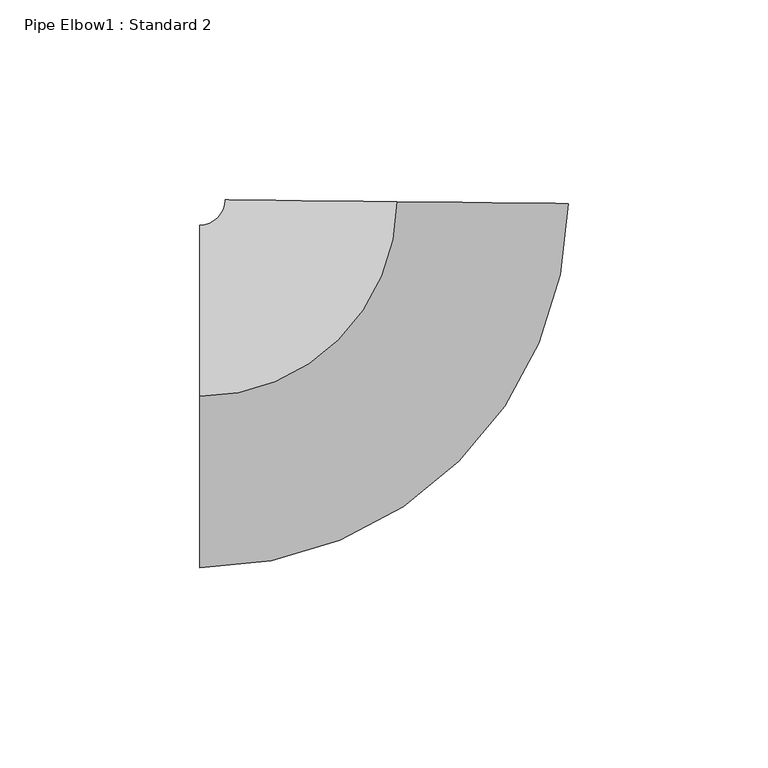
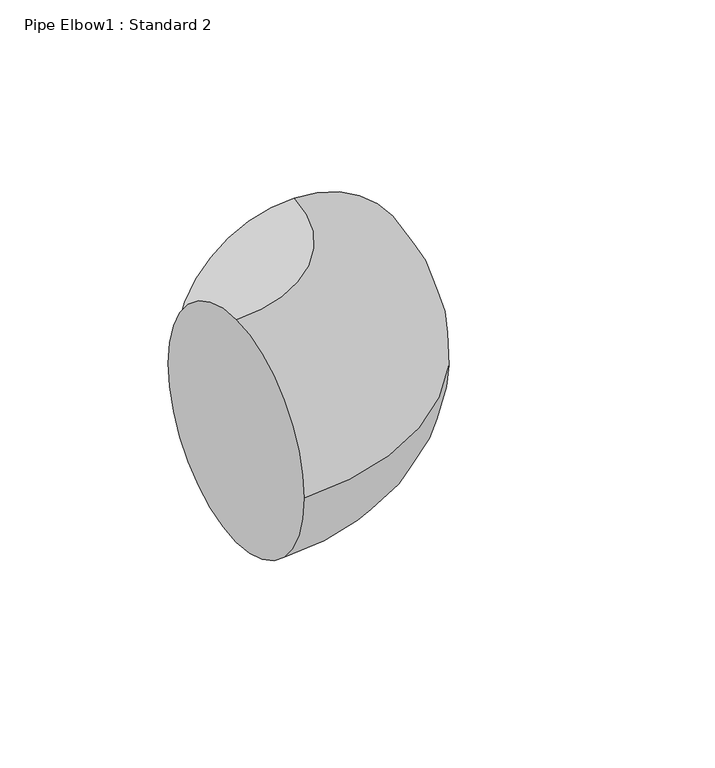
"""IFC4 building model written with IfcOpenShell, lengths in millimetres: pipe fitting geometry, Pipe Elbow1 : Standard 2."""

from ifc_helpers import new_model, si_unit, point, frame, origin, place, context, project, spatial, circle_curve, ellipse_curve, trimmed, source, transform, mapped, element, save
from ifc_brep_helpers import plane_surface, revolved_surface, advanced_brep


def pipe_elbow1_standard_2_fca8fec2(model_context):
    return source(origin(), model_context, "Body", "AdvancedBrep", [
        advanced_brep(
        [(-48.6988761, 0.0, 42.8625), (-48.6988761, 42.8625, 0.0), (-48.6988761, 0.0, -42.8625), (-48.6988761, -42.8625, 0.0), (0.5109155, 48.6961959, 42.8625), (43.3710565, 48.2465118, 0.0), (0.5109155, 48.6961959, -42.8625), (-42.3492256, 49.1458801, 0.0)],
        [
            (0, 1, circle_curve(frame((-48.6988761, 0.0, 0.0), z_axis=(-1.0, 0.0, 0.0), x_axis=(0.0, 1.0, 0.0)), 42.8625)),
            (1, 2, circle_curve(frame((-48.6988761, 0.0, 0.0), z_axis=(-1.0, 0.0, 0.0), x_axis=(0.0, 1.0, 0.0)), 42.8625)),
            (2, 3, circle_curve(frame((-48.6988761, 0.0, 0.0), z_axis=(-1.0, 0.0, 0.0), x_axis=(0.0, 1.0, 0.0)), 42.8625)),
            (3, 0, circle_curve(frame((-48.6988761, 0.0, 0.0), z_axis=(-1.0, 0.0, 0.0), x_axis=(0.0, 1.0, 0.0)), 42.8625)),
            (4, 5, circle_curve(frame((0.5109155, 48.6961959, 0.0), z_axis=(0.010491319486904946, 0.9999449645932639, 0.0), x_axis=(-0.9999449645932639, 0.010491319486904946, 0.0)), 42.8625)),
            (5, 6, circle_curve(frame((0.5109155, 48.6961959, 0.0), z_axis=(0.010491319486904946, 0.9999449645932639, 0.0), x_axis=(-0.9999449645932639, 0.010491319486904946, 0.0)), 42.8625)),
            (6, 7, circle_curve(frame((0.5109155, 48.6961959, 0.0), z_axis=(0.010491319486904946, 0.9999449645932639, 0.0), x_axis=(-0.9999449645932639, 0.010491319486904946, 0.0)), 42.8625)),
            (7, 4, circle_curve(frame((0.5109155, 48.6961959, 0.0), z_axis=(0.010491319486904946, 0.9999449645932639, 0.0), x_axis=(-0.9999449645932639, 0.010491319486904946, 0.0)), 42.8625)),
            (7, 1, circle_curve(frame((-48.6988761, 49.2125, 0.0), z_axis=(0.0, 0.0, -1.0), x_axis=(0.0, -1.0, 0.0)), 6.35)),
            (0, 4, circle_curve(frame((-48.6988761, 49.2125, 42.8625), z_axis=(0.0, 0.0, 1.0), x_axis=(0.0, -1.0, 0.0)), 49.2125)),
            (6, 2, circle_curve(frame((-48.6988761, 49.2125, -42.8625), z_axis=(0.0, 0.0, -1.0), x_axis=(0.0, -1.0, 0.0)), 49.2125)),
            (5, 3, circle_curve(frame((-48.6988761, 49.2125, 0.0), z_axis=(0.0, 0.0, -1.0), x_axis=(0.0, -1.0, 0.0)), 92.075)),
        ],
        [
            plane_surface(frame((-48.6988761, 0.0, 0.0), z_axis=(-1.0, 0.0, 0.0), x_axis=(0.0, 0.0, 1.0))),
            plane_surface(frame((0.5109155, 48.6961959, 0.0), z_axis=(0.010491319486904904, 0.9999449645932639, 0.0), x_axis=(0.0, 0.0, 1.0))),
            revolved_surface(trimmed(ellipse_curve(frame((-48.6988761, 0.0, 0.0), z_axis=(-1.0, 0.0, 0.0), x_axis=(0.0, 1.0, 0.0)), 42.8625, 42.8625), [point((-48.6988761, 0.0, 42.8625))], [point((-48.6988761, 42.8625, 0.0))], True, "CARTESIAN"), (-48.6988761, 49.2125, 0.0), (0.0, 0.0, 1.0)),
            revolved_surface(trimmed(ellipse_curve(frame((-48.6988761, 0.0, 0.0), z_axis=(-1.0, 0.0, 0.0), x_axis=(0.0, 1.0, 0.0)), 42.8625, 42.8625), [point((-48.6988761, 42.8625, 0.0))], [point((-48.6988761, 0.0, -42.8625))], True, "CARTESIAN"), (-48.6988761, 49.2125, 0.0), (0.0, 0.0, 1.0)),
            revolved_surface(trimmed(ellipse_curve(frame((-48.6988761, 0.0, 0.0), z_axis=(-1.0, 0.0, 0.0), x_axis=(0.0, 1.0, 0.0)), 42.8625, 42.8625), [point((-48.6988761, 0.0, -42.8625))], [point((-48.6988761, -42.8625, 0.0))], True, "CARTESIAN"), (-48.6988761, 49.2125, 0.0), (0.0, 0.0, 1.0)),
            revolved_surface(trimmed(ellipse_curve(frame((-48.6988761, 0.0, 0.0), z_axis=(-1.0, 0.0, 0.0), x_axis=(0.0, 1.0, 0.0)), 42.8625, 42.8625), [point((-48.6988761, -42.8625, 0.0))], [point((-48.6988761, 0.0, 42.8625))], True, "CARTESIAN"), (-48.6988761, 49.2125, 0.0), (0.0, 0.0, 1.0)),
        ],
        [
            (0, [[1, 2, 3, 4]]),
            (1, [[5, 6, 7, 8]]),
            (2, [[9, -1, 10, -8]]),
            (3, [[11, -2, -9, -7]]),
            (4, [[12, -3, -11, -6]]),
            (5, [[-10, -4, -12, -5]]),
        ],
    ),
        advanced_brep(
        [(-48.6988761, 0.0, 42.8625), (-48.6988761, 42.8625, 0.0), (-48.6988761, 0.0, -42.8625), (-48.6988761, -42.8625, 0.0), (0.5109155, 48.6961959, 42.8625), (43.3710565, 48.2465118, 0.0), (0.5109155, 48.6961959, -42.8625), (-42.3492256, 49.1458801, 0.0)],
        [
            (0, 1, circle_curve(frame((-48.6988761, 0.0, 0.0), z_axis=(-1.0, 0.0, 0.0), x_axis=(0.0, 1.0, 0.0)), 42.8625)),
            (1, 2, circle_curve(frame((-48.6988761, 0.0, 0.0), z_axis=(-1.0, 0.0, 0.0), x_axis=(0.0, 1.0, 0.0)), 42.8625)),
            (2, 3, circle_curve(frame((-48.6988761, 0.0, 0.0), z_axis=(-1.0, 0.0, 0.0), x_axis=(0.0, 1.0, 0.0)), 42.8625)),
            (3, 0, circle_curve(frame((-48.6988761, 0.0, 0.0), z_axis=(-1.0, 0.0, 0.0), x_axis=(0.0, 1.0, 0.0)), 42.8625)),
            (4, 5, circle_curve(frame((0.5109155, 48.6961959, 0.0), z_axis=(0.010491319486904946, 0.9999449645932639, 0.0), x_axis=(-0.9999449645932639, 0.010491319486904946, 0.0)), 42.8625)),
            (5, 6, circle_curve(frame((0.5109155, 48.6961959, 0.0), z_axis=(0.010491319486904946, 0.9999449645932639, 0.0), x_axis=(-0.9999449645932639, 0.010491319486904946, 0.0)), 42.8625)),
            (6, 7, circle_curve(frame((0.5109155, 48.6961959, 0.0), z_axis=(0.010491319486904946, 0.9999449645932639, 0.0), x_axis=(-0.9999449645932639, 0.010491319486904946, 0.0)), 42.8625)),
            (7, 4, circle_curve(frame((0.5109155, 48.6961959, 0.0), z_axis=(0.010491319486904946, 0.9999449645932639, 0.0), x_axis=(-0.9999449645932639, 0.010491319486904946, 0.0)), 42.8625)),
            (7, 1, circle_curve(frame((-48.6988761, 49.2125, 0.0), z_axis=(0.0, 0.0, -1.0), x_axis=(0.0, -1.0, 0.0)), 6.35)),
            (0, 4, circle_curve(frame((-48.6988761, 49.2125, 42.8625), z_axis=(0.0, 0.0, 1.0), x_axis=(0.0, -1.0, 0.0)), 49.2125)),
            (6, 2, circle_curve(frame((-48.6988761, 49.2125, -42.8625), z_axis=(0.0, 0.0, -1.0), x_axis=(0.0, -1.0, 0.0)), 49.2125)),
            (5, 3, circle_curve(frame((-48.6988761, 49.2125, 0.0), z_axis=(0.0, 0.0, -1.0), x_axis=(0.0, -1.0, 0.0)), 92.075)),
        ],
        [
            plane_surface(frame((-48.6988761, 0.0, 0.0), z_axis=(-1.0, 0.0, 0.0), x_axis=(0.0, 0.0, 1.0))),
            plane_surface(frame((0.5109155, 48.6961959, 0.0), z_axis=(0.010491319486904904, 0.9999449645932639, 0.0), x_axis=(0.0, 0.0, 1.0))),
            revolved_surface(trimmed(ellipse_curve(frame((-48.6988761, 0.0, 0.0), z_axis=(-1.0, 0.0, 0.0), x_axis=(0.0, 1.0, 0.0)), 42.8625, 42.8625), [point((-48.6988761, 0.0, 42.8625))], [point((-48.6988761, 42.8625, 0.0))], True, "CARTESIAN"), (-48.6988761, 49.2125, 0.0), (0.0, 0.0, 1.0)),
            revolved_surface(trimmed(ellipse_curve(frame((-48.6988761, 0.0, 0.0), z_axis=(-1.0, 0.0, 0.0), x_axis=(0.0, 1.0, 0.0)), 42.8625, 42.8625), [point((-48.6988761, 42.8625, 0.0))], [point((-48.6988761, 0.0, -42.8625))], True, "CARTESIAN"), (-48.6988761, 49.2125, 0.0), (0.0, 0.0, 1.0)),
            revolved_surface(trimmed(ellipse_curve(frame((-48.6988761, 0.0, 0.0), z_axis=(-1.0, 0.0, 0.0), x_axis=(0.0, 1.0, 0.0)), 42.8625, 42.8625), [point((-48.6988761, 0.0, -42.8625))], [point((-48.6988761, -42.8625, 0.0))], True, "CARTESIAN"), (-48.6988761, 49.2125, 0.0), (0.0, 0.0, 1.0)),
            revolved_surface(trimmed(ellipse_curve(frame((-48.6988761, 0.0, 0.0), z_axis=(-1.0, 0.0, 0.0), x_axis=(0.0, 1.0, 0.0)), 42.8625, 42.8625), [point((-48.6988761, -42.8625, 0.0))], [point((-48.6988761, 0.0, 42.8625))], True, "CARTESIAN"), (-48.6988761, 49.2125, 0.0), (0.0, 0.0, 1.0)),
        ],
        [
            (0, [[1, 2, 3, 4]]),
            (1, [[5, 6, 7, 8]]),
            (2, [[9, -1, 10, -8]]),
            (3, [[11, -2, -9, -7]]),
            (4, [[12, -3, -11, -6]]),
            (5, [[-10, -4, -12, -5]]),
        ],
    ),
    ])


if __name__ == "__main__":
    model = new_model("IFC4")
    model_context = context("Model", 3, world=origin())
    ifc_project = project(units=[si_unit("LENGTHUNIT", "METRE", prefix="MILLI")], contexts=[model_context])
    site = spatial("IfcSite", under=ifc_project)
    building = spatial("IfcBuilding", under=site)
    placement = place(None, origin())
    pipe_elbow1_standard_2_shape = pipe_elbow1_standard_2_fca8fec2(model_context)
    element("IfcPipeFitting", 1, ObjectType="Pipe Elbow1 : Standard 2", at=placement, inside=building, context=model_context, shape_type="MappedRepresentation", body=[
        mapped(pipe_elbow1_standard_2_shape, transform((0.0, 0.0, 0.0), x_axis=(1.0, 0.0, 0.0), y_axis=(0.0, 1.0, 0.0), z_axis=(0.0, 0.0, 1.0))),
    ])
    save(model, "model.ifc")
